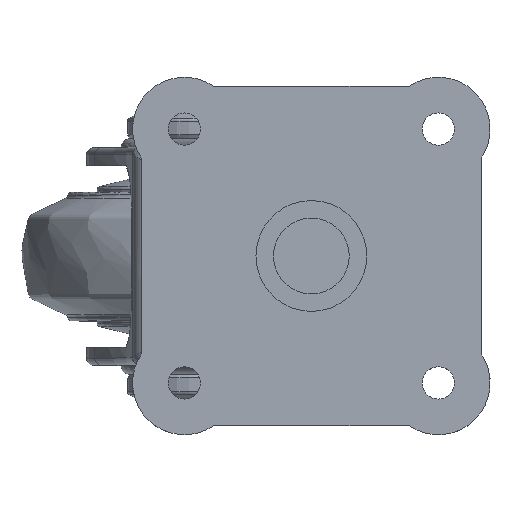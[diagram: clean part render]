
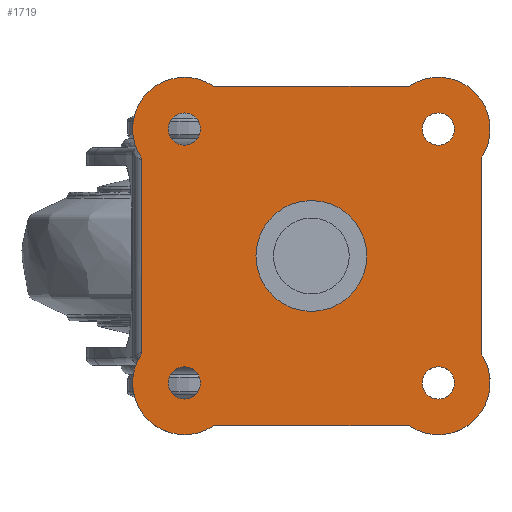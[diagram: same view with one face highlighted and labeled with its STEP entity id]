
A CAD part, top view. The second image highlights one B-rep face of the part: STEP entity #1719.
In plain terms, the highlighted planar face has unit normal (0, 0, 1).
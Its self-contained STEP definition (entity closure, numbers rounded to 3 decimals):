
#303=PLANE('',#6405);
#971=LINE('',#12167,#1391);
#972=LINE('',#12171,#1392);
#973=LINE('',#12175,#1393);
#974=LINE('',#12179,#1394);
#1391=VECTOR('',#7808,1.);
#1392=VECTOR('',#7811,1.);
#1393=VECTOR('',#7814,1.);
#1394=VECTOR('',#7817,1.);
#1719=ADVANCED_FACE('',(#2021,#2022,#2023,#2024,#2025,#2026),#303,.F.);
#2021=FACE_BOUND('',#2494,.T.);
#2022=FACE_BOUND('',#2495,.T.);
#2023=FACE_BOUND('',#2496,.T.);
#2024=FACE_BOUND('',#2497,.T.);
#2025=FACE_BOUND('',#2498,.T.);
#2026=FACE_BOUND('',#2499,.T.);
#2494=EDGE_LOOP('',(#4118));
#2495=EDGE_LOOP('',(#4119));
#2496=EDGE_LOOP('',(#4120));
#2497=EDGE_LOOP('',(#4121,#4122,#4123,#4124,#4125,#4126,#4127,#4128));
#2498=EDGE_LOOP('',(#4129));
#2499=EDGE_LOOP('',(#4130));
#4118=ORIENTED_EDGE('',*,*,#5585,.T.);
#4119=ORIENTED_EDGE('',*,*,#5586,.T.);
#4120=ORIENTED_EDGE('',*,*,#5587,.T.);
#4121=ORIENTED_EDGE('',*,*,#5588,.T.);
#4122=ORIENTED_EDGE('',*,*,#5589,.F.);
#4123=ORIENTED_EDGE('',*,*,#5590,.F.);
#4124=ORIENTED_EDGE('',*,*,#5591,.F.);
#4125=ORIENTED_EDGE('',*,*,#5592,.F.);
#4126=ORIENTED_EDGE('',*,*,#5593,.T.);
#4127=ORIENTED_EDGE('',*,*,#5594,.T.);
#4128=ORIENTED_EDGE('',*,*,#5595,.T.);
#4129=ORIENTED_EDGE('',*,*,#5584,.F.);
#4130=ORIENTED_EDGE('',*,*,#5596,.F.);
#4808=VERTEX_POINT('',#12156);
#4809=VERTEX_POINT('',#12159);
#4810=VERTEX_POINT('',#12161);
#4811=VERTEX_POINT('',#12163);
#4812=VERTEX_POINT('',#12165);
#4813=VERTEX_POINT('',#12166);
#4814=VERTEX_POINT('',#12168);
#4815=VERTEX_POINT('',#12170);
#4816=VERTEX_POINT('',#12172);
#4817=VERTEX_POINT('',#12174);
#4818=VERTEX_POINT('',#12176);
#4819=VERTEX_POINT('',#12178);
#4820=VERTEX_POINT('',#12181);
#5584=EDGE_CURVE('',#4808,#4808,#5892,.T.);
#5585=EDGE_CURVE('',#4809,#4809,#5893,.T.);
#5586=EDGE_CURVE('',#4810,#4810,#5894,.T.);
#5587=EDGE_CURVE('',#4811,#4811,#5895,.T.);
#5588=EDGE_CURVE('',#4812,#4813,#5896,.T.);
#5589=EDGE_CURVE('',#4814,#4813,#971,.T.);
#5590=EDGE_CURVE('',#4815,#4814,#5897,.T.);
#5591=EDGE_CURVE('',#4816,#4815,#972,.T.);
#5592=EDGE_CURVE('',#4817,#4816,#5898,.T.);
#5593=EDGE_CURVE('',#4817,#4818,#973,.T.);
#5594=EDGE_CURVE('',#4818,#4819,#5899,.T.);
#5595=EDGE_CURVE('',#4819,#4812,#974,.T.);
#5596=EDGE_CURVE('',#4820,#4820,#5900,.T.);
#5892=CIRCLE('',#6395,15.5);
#5893=CIRCLE('',#6397,4.5);
#5894=CIRCLE('',#6398,4.5);
#5895=CIRCLE('',#6399,4.5);
#5896=CIRCLE('',#6400,14.5);
#5897=CIRCLE('',#6401,14.5);
#5898=CIRCLE('',#6402,14.5);
#5899=CIRCLE('',#6403,14.5);
#5900=CIRCLE('',#6404,4.5);
#6395=AXIS2_PLACEMENT_3D('',#12155,#7796,#7797);
#6397=AXIS2_PLACEMENT_3D('',#12158,#7800,#7801);
#6398=AXIS2_PLACEMENT_3D('',#12160,#7802,#7803);
#6399=AXIS2_PLACEMENT_3D('',#12162,#7804,#7805);
#6400=AXIS2_PLACEMENT_3D('',#12164,#7806,#7807);
#6401=AXIS2_PLACEMENT_3D('',#12169,#7809,#7810);
#6402=AXIS2_PLACEMENT_3D('',#12173,#7812,#7813);
#6403=AXIS2_PLACEMENT_3D('',#12177,#7815,#7816);
#6404=AXIS2_PLACEMENT_3D('',#12180,#7818,#7819);
#6405=AXIS2_PLACEMENT_3D('',#12182,#7820,#7821);
#7796=DIRECTION('',(0.,0.,1.));
#7797=DIRECTION('',(0.,-1.,0.));
#7800=DIRECTION('',(0.,0.,-1.));
#7801=DIRECTION('',(1.,0.,0.));
#7802=DIRECTION('',(0.,0.,-1.));
#7803=DIRECTION('',(1.,0.,0.));
#7804=DIRECTION('',(0.,0.,-1.));
#7805=DIRECTION('',(1.,0.,0.));
#7806=DIRECTION('',(0.,0.,1.));
#7807=DIRECTION('',(1.,0.,0.));
#7808=DIRECTION('',(0.,-1.,0.));
#7809=DIRECTION('',(0.,0.,-1.));
#7810=DIRECTION('',(1.,0.,0.));
#7811=DIRECTION('',(1.,0.,0.));
#7812=DIRECTION('',(0.,0.,-1.));
#7813=DIRECTION('',(1.,0.,0.));
#7814=DIRECTION('',(0.,-1.,0.));
#7815=DIRECTION('',(0.,0.,1.));
#7816=DIRECTION('',(1.,0.,0.));
#7817=DIRECTION('',(1.,0.,0.));
#7818=DIRECTION('',(0.,0.,1.));
#7819=DIRECTION('',(1.,0.,0.));
#7820=DIRECTION('',(0.,0.,-1.));
#7821=DIRECTION('',(0.,-1.,0.));
#12155=CARTESIAN_POINT('',(0.,0.,0.));
#12156=CARTESIAN_POINT('',(0.,-15.5,0.));
#12158=CARTESIAN_POINT('',(-35.5,35.5,0.));
#12159=CARTESIAN_POINT('',(-31.,35.5,0.));
#12160=CARTESIAN_POINT('',(-35.5,-35.5,0.));
#12161=CARTESIAN_POINT('',(-31.,-35.5,0.));
#12162=CARTESIAN_POINT('',(35.5,-35.5,0.));
#12163=CARTESIAN_POINT('',(40.,-35.5,0.));
#12164=CARTESIAN_POINT('',(35.5,-35.5,0.));
#12165=CARTESIAN_POINT('',(27.361,-47.5,0.));
#12166=CARTESIAN_POINT('',(47.5,-27.361,0.));
#12167=CARTESIAN_POINT('',(47.5,0.,0.));
#12168=CARTESIAN_POINT('',(47.5,27.361,0.));
#12169=CARTESIAN_POINT('',(35.5,35.5,0.));
#12170=CARTESIAN_POINT('',(27.361,47.5,0.));
#12171=CARTESIAN_POINT('',(50.,47.5,0.));
#12172=CARTESIAN_POINT('',(-27.361,47.5,0.));
#12173=CARTESIAN_POINT('',(-35.5,35.5,0.));
#12174=CARTESIAN_POINT('',(-47.5,27.361,0.));
#12175=CARTESIAN_POINT('',(-47.5,0.,0.));
#12176=CARTESIAN_POINT('',(-47.5,-27.361,0.));
#12177=CARTESIAN_POINT('',(-35.5,-35.5,0.));
#12178=CARTESIAN_POINT('',(-27.361,-47.5,0.));
#12179=CARTESIAN_POINT('',(50.,-47.5,0.));
#12180=CARTESIAN_POINT('',(35.5,35.5,0.));
#12181=CARTESIAN_POINT('',(40.,35.5,0.));
#12182=CARTESIAN_POINT('',(50.,0.,0.));
